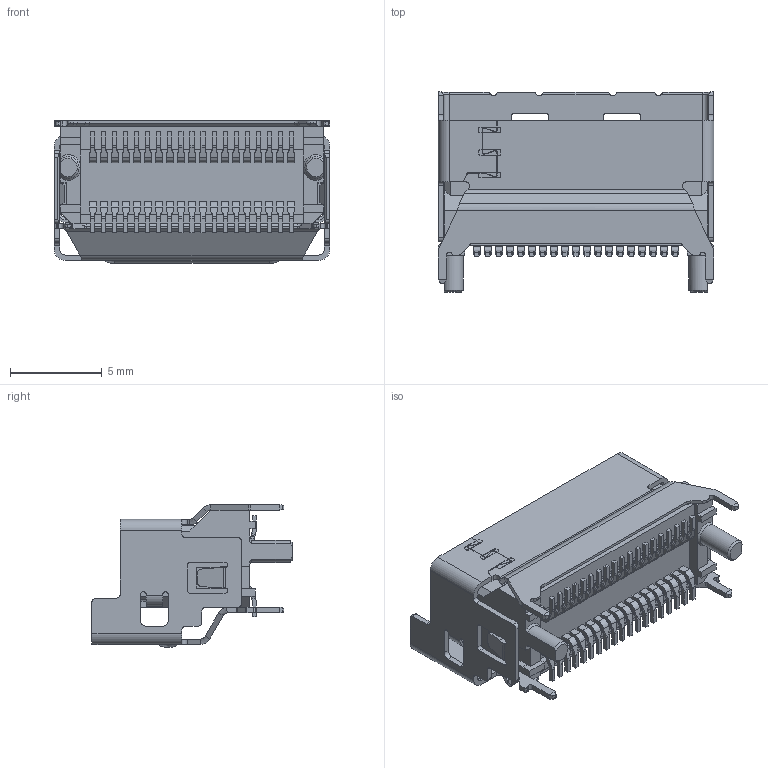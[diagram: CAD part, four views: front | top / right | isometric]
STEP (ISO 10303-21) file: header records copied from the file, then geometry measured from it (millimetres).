
FILE_DESCRIPTION((''),'2;1');
FILE_NAME('CD-02V2XXXX0H','2024-05-16T22:09:39',('ZL'),(''),'CREO PARAMETRIC BY PTC INC, 2020053','CREO PARAMETRIC BY PTC INC, 2020053','');
FILE_SCHEMA(('AUTOMOTIVE_DESIGN { 1 0 10303 214 1 1 1 1 }'));
Products named in the file (1): CD-02V2XXXX0H
Bounding box: 15 x 10.9 x 7.77 mm (x, y, z)
Volume: 431.1 mm3; surface area: 1305.1 mm2
Topology: 1 solids, 1 shells, 2397 faces, 6856 edges, 4494 vertices
Faces by surface type: plane 1380, cylinder 913, torus 78, cone 14, bspline 12
Entity records: 80279 total; most frequent: CARTESIAN_POINT 15539, ORIENTED_EDGE 13712, DIRECTION 13256, EDGE_CURVE 6856, VECTOR 4769, LINE 4769, VERTEX_POINT 4494, AXIS2_PLACEMENT_3D 4242
